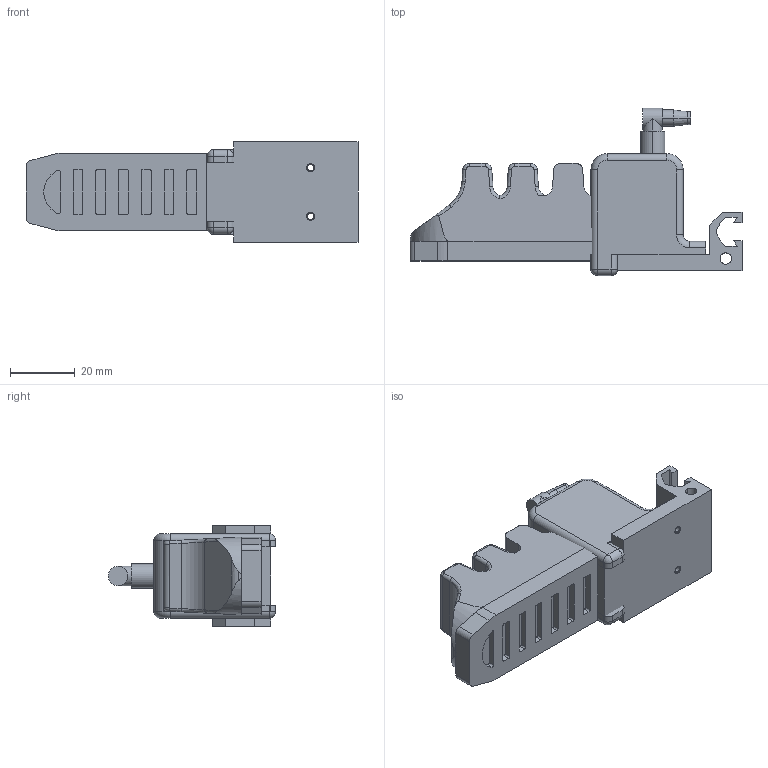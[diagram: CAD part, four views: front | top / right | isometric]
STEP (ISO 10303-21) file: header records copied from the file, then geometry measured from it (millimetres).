
FILE_DESCRIPTION (( 'STEP AP214' ), '1' );
FILE_NAME ('GFM-A4V5.STEP', '2019-12-04T02:50:36', ( '微软用户' ), ( '微软中国' ), 'SwSTEP 2.0', 'SolidWorks 2016', '' );
FILE_SCHEMA (( 'AUTOMOTIVE_DESIGN' ));
Length unit declared in the file: millimetre
Products named in the file (1): GFM-A4V5
Bounding box: 102.2 x 51.5 x 31 mm (x, y, z)
Volume: 61862.8 mm3; surface area: 24019.5 mm2
Topology: 4 solids, 4 shells, 283 faces, 708 edges, 442 vertices
Faces by surface type: cylinder 126, plane 113, bspline 20, cone 14, torus 6, sphere 4
Entity records: 12998 total; most frequent: CARTESIAN_POINT 3157, ORIENTED_EDGE 1416, DIRECTION 1378, EDGE_CURVE 708, AXIS2_PLACEMENT_3D 493, VERTEX_POINT 442, VECTOR 392, LINE 392
